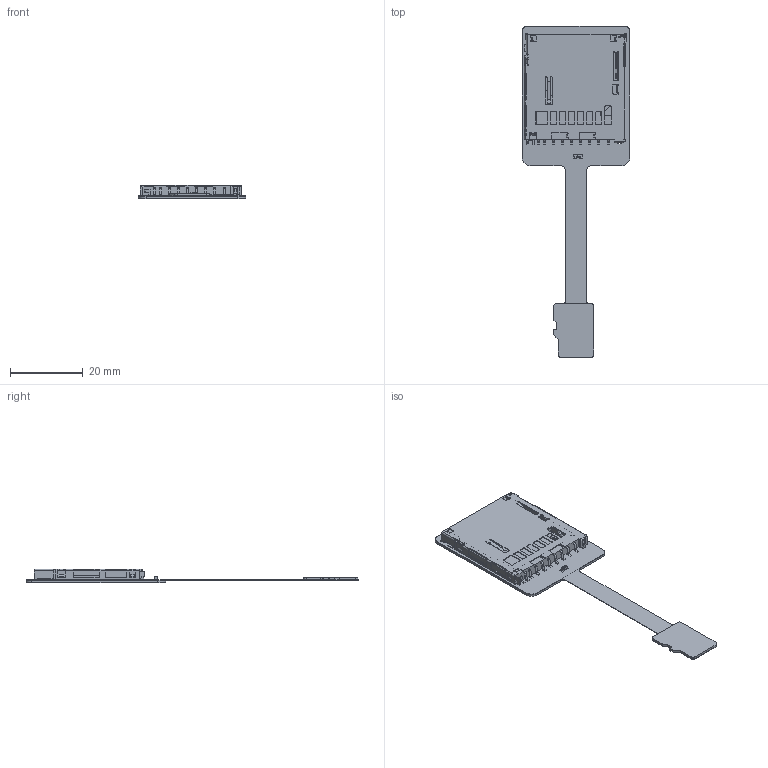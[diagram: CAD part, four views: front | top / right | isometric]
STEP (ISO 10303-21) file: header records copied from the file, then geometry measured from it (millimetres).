
FILE_DESCRIPTION(('Open CASCADE Model'),'2;1');
FILE_NAME('Open CASCADE Shape Model','2022-06-04T11:08:58',('Author'),( 'Open CASCADE'),'Open CASCADE STEP processor 6.8','Open CASCADE 6.8' ,'Unknown');
FILE_SCHEMA(('AUTOMOTIVE_DESIGN { 1 0 10303 214 1 1 1 1 }'));
Length unit declared in the file: millimetre
Products named in the file (13): PCB; Board; Open CASCADE STEP translator 6.8 3.1.1; C1; 电容贴片Capacitor_0603_SMD; User_Library-cap0603_cap0603_body_??; User_Library-cap0603_pad_0603_??; Free-Models; SD_conn_PAD_RGB32896; DM1B-DSF-PEJ_20211025（2）; uSD_PAD_RGB32896
Assembly tree (13 placements, depth 5):
  PCB
    Board
      Open CASCADE STEP translator 6.8 3.1.1
    C1
      电容贴片Capacitor_0603_SMD
        电容贴片Capacitor_0603_SMD
          User_Library-cap0603_cap0603_body_??
          User_Library-cap0603_pad_0603_??
    Free-Models
      SD_conn_PAD_RGB32896
      DM1B-DSF-PEJ_20211025（2）  x2
      DM1B-DSF-PEJ_20211025（2）
      uSD_PAD_RGB32896
Bounding box: 29.73 x 91.51 x 3.65 mm (x, y, z)
Volume: 2940.9 mm3; surface area: 14181.3 mm2
Topology: 9 solids, 9 shells, 2744 faces, 7928 edges, 5158 vertices
Faces by surface type: plane 1998, cylinder 729, bspline 9, sphere 8
Entity records: 78965 total; most frequent: CARTESIAN_POINT 11872, ORIENTED_EDGE 10866, DIRECTION 10237, EDGE_CURVE 5433, LINE 4367, VECTOR 4367, VERTEX_POINT 3538, AXIS2_PLACEMENT_3D 2935
